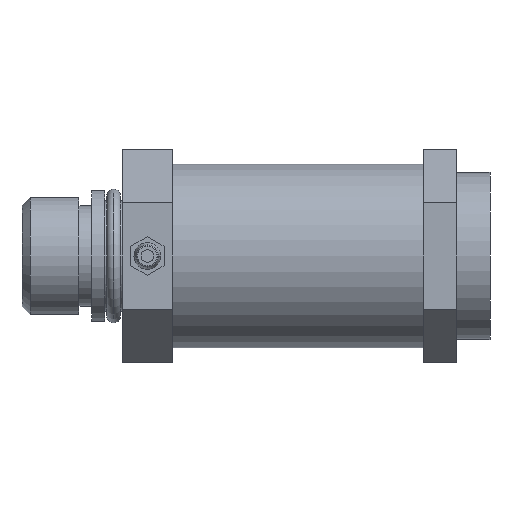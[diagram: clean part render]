
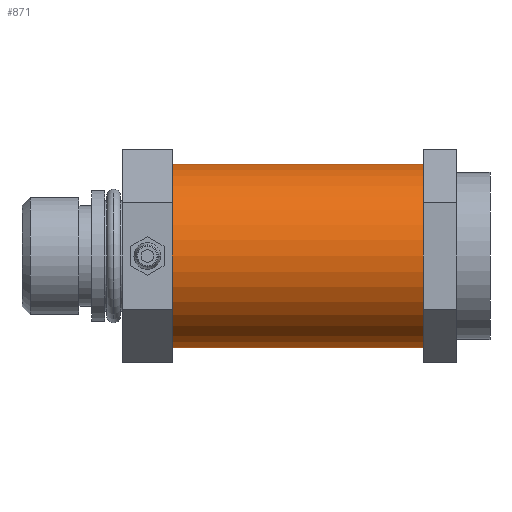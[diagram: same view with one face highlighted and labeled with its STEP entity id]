
A CAD part, front view. The second image highlights one B-rep face of the part: STEP entity #871.
In plain terms, the highlighted cylindrical face has radius 17.462 mm (diameter 34.925 mm), a partial arc.
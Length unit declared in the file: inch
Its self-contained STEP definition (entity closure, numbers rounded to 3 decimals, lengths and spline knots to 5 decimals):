
#801=CARTESIAN_POINT('',(-0.5,0.,0.));
#802=DIRECTION('',(1.,0.,0.));
#803=DIRECTION('',(0.,0.,1.));
#804=AXIS2_PLACEMENT_3D('',#801,#802,#803);
#806=DIRECTION('',(1.,0.,0.));
#807=VECTOR('',#806,1.875);
#808=CARTESIAN_POINT('',(-2.375,0.,-0.6875));
#809=LINE('',#808,#807);
#810=DIRECTION('',(1.,0.,0.));
#811=VECTOR('',#810,1.875);
#812=CARTESIAN_POINT('',(-2.375,0.,0.6875));
#813=LINE('',#812,#811);
#814=CARTESIAN_POINT('',(-2.375,0.,0.));
#815=DIRECTION('',(-1.,0.,0.));
#816=DIRECTION('',(0.,0.,-1.));
#817=AXIS2_PLACEMENT_3D('',#814,#815,#816);
#824=CARTESIAN_POINT('',(-2.375,0.,0.6875));
#825=CARTESIAN_POINT('',(-0.5,0.,0.6875));
#826=VERTEX_POINT('',#824);
#827=VERTEX_POINT('',#825);
#828=CARTESIAN_POINT('',(-2.375,0.,-0.6875));
#829=CARTESIAN_POINT('',(-0.5,0.,-0.6875));
#830=VERTEX_POINT('',#828);
#831=VERTEX_POINT('',#829);
#859=CARTESIAN_POINT('',(-2.375,0.,0.));
#860=DIRECTION('',(1.,0.,0.));
#861=DIRECTION('',(0.,0.,-1.));
#862=AXIS2_PLACEMENT_3D('',#859,#860,#861);
#863=CYLINDRICAL_SURFACE('',#862,0.6875);
#864=ORIENTED_EDGE('',*,*,#854,.T.);
#865=ORIENTED_EDGE('',*,*,#843,.F.);
#867=ORIENTED_EDGE('',*,*,#866,.T.);
#868=ORIENTED_EDGE('',*,*,#839,.T.);
#869=EDGE_LOOP('',(#864,#865,#867,#868));
#870=FACE_OUTER_BOUND('',#869,.F.);
#805=CIRCLE('',#804,0.6875);
#818=CIRCLE('',#817,0.6875);
#839=EDGE_CURVE('',#826,#827,#813,.T.);
#843=EDGE_CURVE('',#830,#831,#809,.T.);
#854=EDGE_CURVE('',#827,#831,#805,.T.);
#866=EDGE_CURVE('',#830,#826,#818,.T.);
#871=ADVANCED_FACE('',(#870),#863,.T.);
